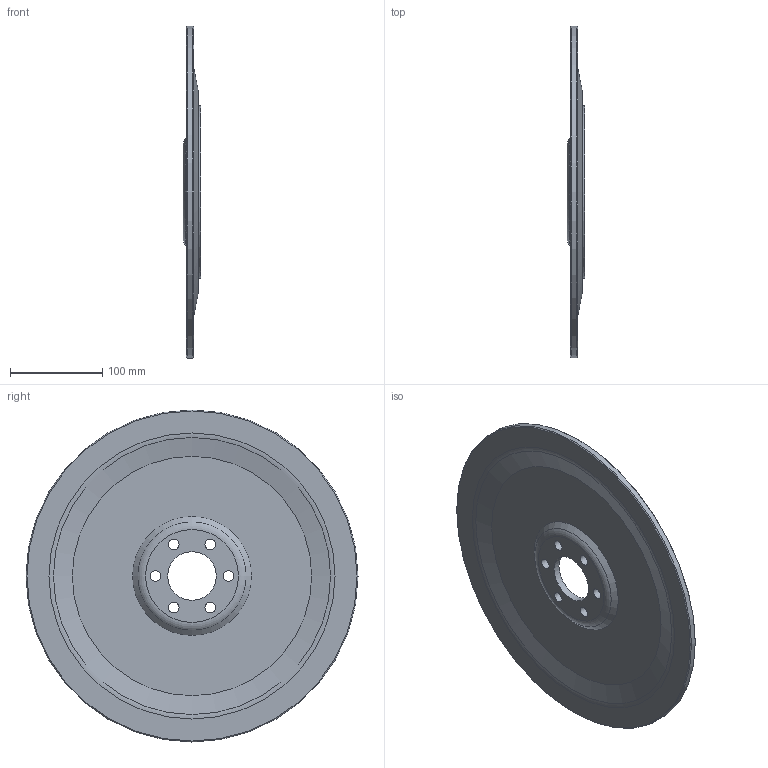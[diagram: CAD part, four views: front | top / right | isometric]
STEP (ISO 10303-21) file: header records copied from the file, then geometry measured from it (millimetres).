
FILE_DESCRIPTION( ( 'Unknown' ), '1' );
FILE_NAME( 'M:/ENG2/CAD/DRAWINGS/Solid Models For Customers (Simplified)/FLYWHEELS/TILTON FLYWHEEL 51-4452 SIMPLE.stp', 'Unknown', ( 'Unknown' ), ( 'Unknown' ), 'PSStep 16.0.42', 'Unknown', ' ' );
FILE_SCHEMA( ( 'AUTOMOTIVE_DESIGN { 1 0 10303 214 1 1 1 1 }' ) );
Length unit declared in the file: millimetre
Products named in the file (1): 1
Bounding box: 19.05 x 359.41 x 359.41 mm (x, y, z)
Volume: 763068.2 mm3; surface area: 214156 mm2
Topology: 1 solids, 1 shells, 63 faces, 131 edges, 87 vertices
Faces by surface type: cylinder 21, plane 19, cone 18, torus 5
Full cylindrical faces by diameter (mm): 8.026 x12, 11.506 x6, 52.553 x1, 186.842 x1, 359.41 x1
Entity records: 1872 total; most frequent: DIRECTION 266, CARTESIAN_POINT 202, EDGE_LOOP 138, ORIENTED_EDGE 138, AXIS2_PLACEMENT_3D 133, FACE_OUTER_BOUND 89, EDGE_CURVE 69, VERTEX_POINT 69
